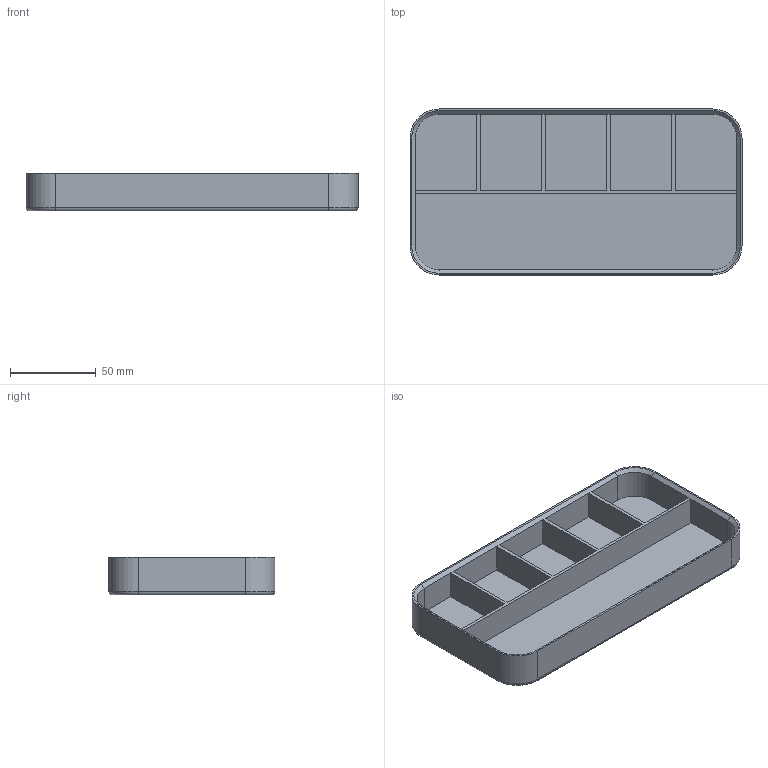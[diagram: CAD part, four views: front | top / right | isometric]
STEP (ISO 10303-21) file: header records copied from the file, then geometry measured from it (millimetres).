
FILE_DESCRIPTION(/* description */ (''),/* implementation_level */ '2;1');
FILE_NAME(/* name */ '2x4_subdivided3.step',/* time_stamp */ '2026-07-09T21:12:09-03:00',/* author */ (''),/* organization */ (''),/* preprocessor_version */ 'ST-DEVELOPER v20.1',/* originating_system */ 'Autodesk Translation Framework v15.8.0.0',/* authorisation */ '');
FILE_SCHEMA (('AUTOMOTIVE_DESIGN { 1 0 10303 214 3 1 1 }'));
Length unit declared in the file: millimetre
Products named in the file (1): Internal tray parametric
Bounding box: 194 x 97 x 22 mm (x, y, z)
Volume: 97578.5 mm3; surface area: 70454.4 mm2
Topology: 1 solids, 1 shells, 61 faces, 146 edges, 88 vertices
Faces by surface type: plane 41, cylinder 12, torus 4, cone 4
Entity records: 1761 total; most frequent: DIRECTION 302, CARTESIAN_POINT 296, ORIENTED_EDGE 292, EDGE_CURVE 146, LINE 114, VECTOR 114, AXIS2_PLACEMENT_3D 94, VERTEX_POINT 88
